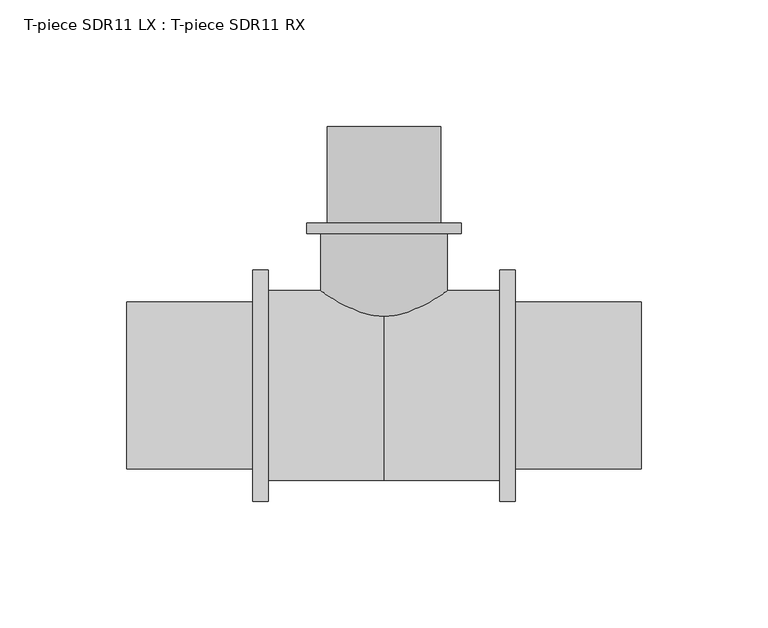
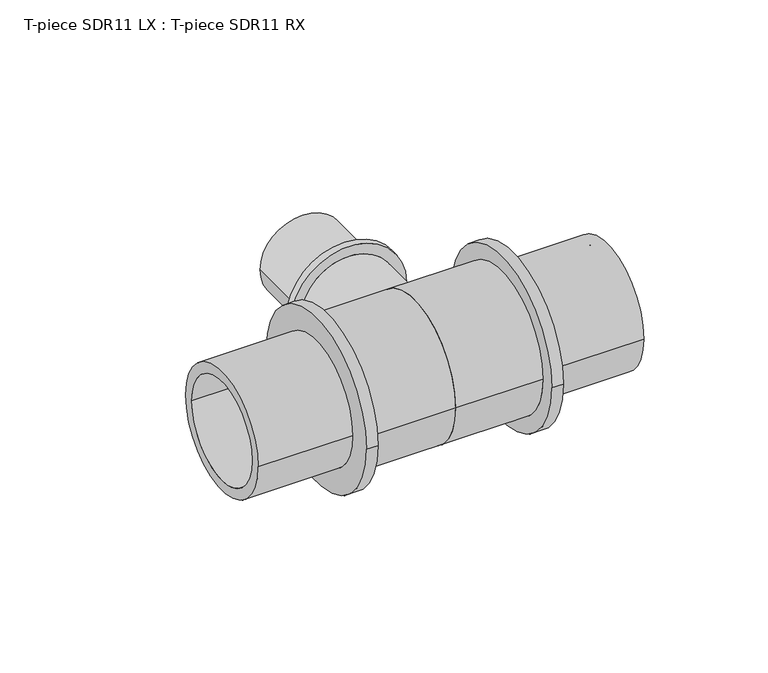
"""IFC4 building model written with IfcOpenShell, lengths in millimetres: pipe fitting geometry, T-piece SDR11 LX : T-piece SDR11 RX."""

from ifc_helpers import new_model, si_unit, point, frame, origin, place, context, project, spatial, polyline, circle_curve, ellipse_curve, trimmed, source, transform, mapped, element, save
from ifc_brep_helpers import plane_surface, cylinder_surface, revolved_surface, advanced_brep


def t_piece_sdr11_lx_t_piece_sdr11_rx_05f4d052(model_context):
    return source(origin(), model_context, "Body", "AdvancedBrep", [
        advanced_brep(
        [(25.0, 1.6537191, 0.0), (-25.0, 1.6537191, 0.0), (-25.0, 60.0, 0.0), (25.0, 60.0, 0.0), (17.8, 102.0, 0.0), (-17.8, 102.0, 0.0), (-17.8, 0.0, 0.0), (17.8, 0.0, 0.0), (22.4, 64.0, 0.0), (-22.4, 64.0, 0.0), (-22.4, 102.0, 0.0), (22.4, 102.0, 0.0), (30.4, 60.0, 0.0), (-30.4, 60.0, 0.0), (-30.4, 64.0, 0.0), (30.4, 64.0, 0.0)],
        [
            (0, 1, circle_curve(frame((0.0, 1.6537191, 0.0), z_axis=(0.0, 1.0, 0.0), x_axis=(-1.0, 0.0, 0.0)), 25.0)),
            (1, 2),
            (2, 3, circle_curve(frame((0.0, 60.0, 0.0), z_axis=(0.0, -1.0, 0.0), x_axis=(-1.0, 0.0, 0.0)), 25.0)),
            (3, 0),
            (4, 5, circle_curve(frame((0.0, 102.0, 0.0), z_axis=(0.0, 1.0, 0.0), x_axis=(-1.0, 0.0, 0.0)), 17.8)),
            (5, 6),
            (6, 7, circle_curve(frame((0.0, 0.0, 0.0), z_axis=(0.0, -1.0, 0.0), x_axis=(-1.0, 0.0, 0.0)), 17.8)),
            (7, 4),
            (8, 9, circle_curve(frame((0.0, 64.0, 0.0), z_axis=(0.0, 1.0, 0.0), x_axis=(-1.0, 0.0, 0.0)), 22.4)),
            (9, 10),
            (10, 11, circle_curve(frame((0.0, 102.0, 0.0), z_axis=(0.0, -1.0, 0.0), x_axis=(-1.0, 0.0, 0.0)), 22.4)),
            (11, 8),
            (12, 13, circle_curve(frame((0.0, 60.0, 0.0), z_axis=(0.0, 1.0, 0.0), x_axis=(-1.0, 0.0, 0.0)), 30.4)),
            (13, 14),
            (14, 15, circle_curve(frame((0.0, 64.0, 0.0), z_axis=(0.0, -1.0, 0.0), x_axis=(-1.0, 0.0, 0.0)), 30.4)),
            (15, 12),
            (12, 13, circle_curve(frame((0.0, 60.0, 0.0), z_axis=(0.0, -1.0, 0.0), x_axis=(1.0, 0.0, 0.0)), 30.4)),
            (2, 3, circle_curve(frame((0.0, 60.0, 0.0), z_axis=(0.0, 1.0, 0.0), x_axis=(1.0, 0.0, 0.0)), 25.0)),
            (1, 0, circle_curve(frame((0.0, 1.6537191, 0.0), z_axis=(0.0, 1.0, 0.0), x_axis=(1.0, 0.0, 0.0)), 25.0)),
            (5, 4, circle_curve(frame((0.0, 102.0, 0.0), z_axis=(0.0, 1.0, 0.0), x_axis=(1.0, 0.0, 0.0)), 17.8)),
            (7, 6, circle_curve(frame((0.0, 0.0, 0.0), z_axis=(0.0, -1.0, 0.0), x_axis=(1.0, 0.0, 0.0)), 17.8)),
            (10, 11, circle_curve(frame((0.0, 102.0, 0.0), z_axis=(0.0, 1.0, 0.0), x_axis=(1.0, 0.0, 0.0)), 22.4)),
            (9, 8, circle_curve(frame((0.0, 64.0, 0.0), z_axis=(0.0, 1.0, 0.0), x_axis=(1.0, 0.0, 0.0)), 22.4)),
            (14, 15, circle_curve(frame((0.0, 64.0, 0.0), z_axis=(0.0, 1.0, 0.0), x_axis=(1.0, 0.0, 0.0)), 30.4)),
            (6, 1, circle_curve(frame((-13.0462802, 37.197475, 0.0), z_axis=(0.0, 0.0, -1.0), x_axis=(0.0, -1.0, 0.0)), 37.5)),
            (0, 7, circle_curve(frame((13.0462802, 37.197475, 0.0), z_axis=(0.0, 0.0, -1.0), x_axis=(0.0, -1.0, 0.0)), 37.5)),
        ],
        [
            cylinder_surface(frame((0.0, 0.0, 0.0), z_axis=(0.0, -1.0, 0.0), x_axis=(-1.0, 0.0, 0.0)), 25.0),
            revolved_surface(polyline([(-17.8, 0.0, 0.0), (-17.8, 102.0, 0.0)]), (0.0, 0.0, 0.0), (0.0, -1.0, 0.0)),
            cylinder_surface(frame((0.0, 0.0, 0.0), z_axis=(0.0, -1.0, 0.0), x_axis=(-1.0, 0.0, 0.0)), 22.4),
            cylinder_surface(frame((0.0, 0.0, 0.0), z_axis=(0.0, -1.0, 0.0), x_axis=(-1.0, 0.0, 0.0)), 30.4),
            plane_surface(frame((0.0, 60.0, 0.0), z_axis=(0.0, -1.0, 0.0), x_axis=(1.0, 0.0, 0.0))),
            cylinder_surface(frame((0.0, 0.0, 0.0), z_axis=(0.0, -1.0, 0.0), x_axis=(1.0, 0.0, 0.0)), 25.0),
            revolved_surface(polyline([(17.8, 0.0, 0.0), (17.8, 102.0, 0.0)]), (0.0, 0.0, 0.0), (0.0, -1.0, 0.0)),
            plane_surface(frame((0.0, 102.0, 0.0), z_axis=(0.0, 1.0, 0.0), x_axis=(1.0, 0.0, 0.0))),
            cylinder_surface(frame((0.0, 0.0, 0.0), z_axis=(0.0, -1.0, 0.0), x_axis=(1.0, 0.0, 0.0)), 22.4),
            plane_surface(frame((0.0, 64.0, 0.0), z_axis=(0.0, 1.0, 0.0), x_axis=(1.0, 0.0, 0.0))),
            cylinder_surface(frame((0.0, 0.0, 0.0), z_axis=(0.0, -1.0, 0.0), x_axis=(1.0, 0.0, 0.0)), 30.4),
            revolved_surface(trimmed(ellipse_curve(frame((-13.0462802, 37.197475, 0.0), z_axis=(0.0, 0.0, 1.0), x_axis=(0.0, -1.0, 0.0)), 37.5, 37.5), [point((-25.0, 1.6537191, 0.0))], [point((-17.8, 0.0, 0.0))], True, "CARTESIAN"), (0.0, 0.0, 0.0), (0.0, -1.0, 0.0)),
            revolved_surface(trimmed(ellipse_curve(frame((13.0462802, 37.197475, 0.0), z_axis=(0.0, 0.0, -1.0), x_axis=(0.0, -1.0, 0.0)), 37.5, 37.5), [point((25.0, 1.6537191, 0.0))], [point((17.8, 0.0, 0.0))], True, "CARTESIAN"), (0.0, 0.0, 0.0), (0.0, -1.0, 0.0)),
        ],
        [
            (0, [[1, 2, 3, 4]]),
            (1, [[5, 6, 7, 8]]),
            (2, [[9, 10, 11, 12]]),
            (3, [[13, 14, 15, 16]]),
            (4, [[17, -13], [18, -3]]),
            (5, [[19, -4, -18, -2]]),
            (6, [[20, -8, 21, -6]]),
            (7, [[22, -11], [-20, -5]]),
            (8, [[23, -12, -22, -10]]),
            (9, [[24, -15], [-23, -9]]),
            (10, [[-17, -16, -24, -14]]),
            (11, [[-7, 25, -1, 26]]),
            (12, [[-21, -26, -19, -25]]),
        ],
    ),
        advanced_brep(
        [(45.7, 37.5, 0.0), (45.7, -37.5, 0.0), (0.0, -37.5, 0.0), (0.0, 37.5, 0.0), (0.0, 27.4, 0.0), (0.0, -27.4, 0.0), (101.3, -27.4, 0.0), (101.3, 27.4, 0.0), (101.3, 32.95, 0.0), (101.3, -32.95, 0.0), (51.7, -32.95, 0.0), (51.7, 32.95, 0.0), (51.7, 45.6, 0.0), (51.7, -45.6, 0.0), (45.7, -45.6, 0.0), (45.7, 45.6, 0.0)],
        [
            (0, 1, circle_curve(frame((45.7, 0.0, 0.0), z_axis=(-1.0, 0.0, 0.0), x_axis=(0.0, -1.0, 0.0)), 37.5)),
            (1, 2),
            (2, 3, circle_curve(frame((0.0, 0.0, 0.0), z_axis=(1.0, 0.0, 0.0), x_axis=(0.0, -1.0, 0.0)), 37.5)),
            (3, 0),
            (4, 5, circle_curve(frame((0.0, 0.0, 0.0), z_axis=(-1.0, 0.0, 0.0), x_axis=(0.0, -1.0, 0.0)), 27.4)),
            (5, 6),
            (6, 7, circle_curve(frame((101.3, 0.0, 0.0), z_axis=(1.0, 0.0, 0.0), x_axis=(0.0, -1.0, 0.0)), 27.4)),
            (7, 4),
            (8, 9, circle_curve(frame((101.3, 0.0, 0.0), z_axis=(-1.0, 0.0, 0.0), x_axis=(0.0, -1.0, 0.0)), 32.95)),
            (9, 10),
            (10, 11, circle_curve(frame((51.7, 0.0, 0.0), z_axis=(1.0, 0.0, 0.0), x_axis=(0.0, -1.0, 0.0)), 32.95)),
            (11, 8),
            (12, 13, circle_curve(frame((51.7, 0.0, 0.0), z_axis=(-1.0, 0.0, 0.0), x_axis=(0.0, -1.0, 0.0)), 45.6)),
            (13, 14),
            (14, 15, circle_curve(frame((45.7, 0.0, 0.0), z_axis=(1.0, 0.0, 0.0), x_axis=(0.0, -1.0, 0.0)), 45.6)),
            (15, 12),
            (14, 15, circle_curve(frame((45.7, 0.0, 0.0), z_axis=(-1.0, 0.0, 0.0), x_axis=(0.0, 1.0, 0.0)), 45.6)),
            (0, 1, circle_curve(frame((45.7, 0.0, 0.0), z_axis=(1.0, 0.0, 0.0), x_axis=(0.0, 1.0, 0.0)), 37.5)),
            (3, 2, circle_curve(frame((0.0, 0.0, 0.0), z_axis=(1.0, 0.0, 0.0), x_axis=(0.0, 1.0, 0.0)), 37.5)),
            (4, 5, circle_curve(frame((0.0, 0.0, 0.0), z_axis=(1.0, 0.0, 0.0), x_axis=(0.0, 1.0, 0.0)), 27.4)),
            (7, 6, circle_curve(frame((101.3, 0.0, 0.0), z_axis=(1.0, 0.0, 0.0), x_axis=(0.0, 1.0, 0.0)), 27.4)),
            (8, 9, circle_curve(frame((101.3, 0.0, 0.0), z_axis=(1.0, 0.0, 0.0), x_axis=(0.0, 1.0, 0.0)), 32.95)),
            (11, 10, circle_curve(frame((51.7, 0.0, 0.0), z_axis=(1.0, 0.0, 0.0), x_axis=(0.0, 1.0, 0.0)), 32.95)),
            (12, 13, circle_curve(frame((51.7, 0.0, 0.0), z_axis=(1.0, 0.0, 0.0), x_axis=(0.0, 1.0, 0.0)), 45.6)),
        ],
        [
            cylinder_surface(frame((0.0, 0.0, 0.0), z_axis=(1.0, 0.0, 0.0), x_axis=(0.0, -1.0, 0.0)), 37.5),
            revolved_surface(polyline([(101.3, -27.4, 0.0), (0.0, -27.4, 0.0)]), (0.0, 0.0, 0.0), (1.0, 0.0, 0.0)),
            cylinder_surface(frame((0.0, 0.0, 0.0), z_axis=(1.0, 0.0, 0.0), x_axis=(0.0, -1.0, 0.0)), 32.95),
            cylinder_surface(frame((0.0, 0.0, 0.0), z_axis=(1.0, 0.0, 0.0), x_axis=(0.0, -1.0, 0.0)), 45.6),
            plane_surface(frame((45.7, 0.0, 0.0), z_axis=(-1.0, 0.0, 0.0), x_axis=(0.0, 1.0, 0.0))),
            cylinder_surface(frame((0.0, 0.0, 0.0), z_axis=(1.0, 0.0, 0.0), x_axis=(0.0, 1.0, 0.0)), 37.5),
            plane_surface(frame((0.0, 0.0, 0.0), z_axis=(-1.0, 0.0, 0.0), x_axis=(0.0, 1.0, 0.0))),
            revolved_surface(polyline([(101.3, 27.4, 0.0), (0.0, 27.4, 0.0)]), (0.0, 0.0, 0.0), (1.0, 0.0, 0.0)),
            plane_surface(frame((101.3, 0.0, 0.0), z_axis=(1.0, 0.0, 0.0), x_axis=(0.0, 1.0, 0.0))),
            cylinder_surface(frame((0.0, 0.0, 0.0), z_axis=(1.0, 0.0, 0.0), x_axis=(0.0, 1.0, 0.0)), 32.95),
            plane_surface(frame((51.7, 0.0, 0.0), z_axis=(1.0, 0.0, 0.0), x_axis=(0.0, 1.0, 0.0))),
            cylinder_surface(frame((0.0, 0.0, 0.0), z_axis=(1.0, 0.0, 0.0), x_axis=(0.0, 1.0, 0.0)), 45.6),
        ],
        [
            (0, [[1, 2, 3, 4]]),
            (1, [[5, 6, 7, 8]]),
            (2, [[9, 10, 11, 12]]),
            (3, [[13, 14, 15, 16]]),
            (4, [[17, -15], [18, -1]]),
            (5, [[-18, -4, 19, -2]]),
            (6, [[-19, -3], [20, -5]]),
            (7, [[-20, -8, 21, -6]]),
            (8, [[22, -9], [-21, -7]]),
            (9, [[-22, -12, 23, -10]]),
            (10, [[24, -13], [-23, -11]]),
            (11, [[-24, -16, -17, -14]]),
        ],
    ),
        advanced_brep(
        [(0.0, 37.5, 0.0), (0.0, -37.5, 0.0), (-45.7, -37.5, 0.0), (-45.7, 37.5, 0.0), (-101.3, 27.4, 0.0), (-101.3, -27.4, 0.0), (0.0, -27.4, 0.0), (0.0, 27.4, 0.0), (-51.7, 32.95, 0.0), (-51.7, -32.95, 0.0), (-101.3, -32.95, 0.0), (-101.3, 32.95, 0.0), (-45.7, 45.6, 0.0), (-45.7, -45.6, 0.0), (-51.7, -45.6, 0.0), (-51.7, 45.6, 0.0)],
        [
            (0, 1, circle_curve(frame((0.0, 0.0, 0.0), z_axis=(-1.0, 0.0, 0.0), x_axis=(0.0, -1.0, 0.0)), 37.5)),
            (1, 2),
            (2, 3, circle_curve(frame((-45.7, 0.0, 0.0), z_axis=(1.0, 0.0, 0.0), x_axis=(0.0, -1.0, 0.0)), 37.5)),
            (3, 0),
            (4, 5, circle_curve(frame((-101.3, 0.0, 0.0), z_axis=(-1.0, 0.0, 0.0), x_axis=(0.0, -1.0, 0.0)), 27.4)),
            (5, 6),
            (6, 7, circle_curve(frame((0.0, 0.0, 0.0), z_axis=(1.0, 0.0, 0.0), x_axis=(0.0, -1.0, 0.0)), 27.4)),
            (7, 4),
            (8, 9, circle_curve(frame((-51.7, 0.0, 0.0), z_axis=(-1.0, 0.0, 0.0), x_axis=(0.0, -1.0, 0.0)), 32.95)),
            (9, 10),
            (10, 11, circle_curve(frame((-101.3, 0.0, 0.0), z_axis=(1.0, 0.0, 0.0), x_axis=(0.0, -1.0, 0.0)), 32.95)),
            (11, 8),
            (12, 13, circle_curve(frame((-45.7, 0.0, 0.0), z_axis=(-1.0, 0.0, 0.0), x_axis=(0.0, -1.0, 0.0)), 45.6)),
            (13, 14),
            (14, 15, circle_curve(frame((-51.7, 0.0, 0.0), z_axis=(1.0, 0.0, 0.0), x_axis=(0.0, -1.0, 0.0)), 45.6)),
            (15, 12),
            (12, 13, circle_curve(frame((-45.7, 0.0, 0.0), z_axis=(1.0, 0.0, 0.0), x_axis=(0.0, 1.0, 0.0)), 45.6)),
            (2, 3, circle_curve(frame((-45.7, 0.0, 0.0), z_axis=(-1.0, 0.0, 0.0), x_axis=(0.0, 1.0, 0.0)), 37.5)),
            (1, 0, circle_curve(frame((0.0, 0.0, 0.0), z_axis=(-1.0, 0.0, 0.0), x_axis=(0.0, 1.0, 0.0)), 37.5)),
            (6, 7, circle_curve(frame((0.0, 0.0, 0.0), z_axis=(-1.0, 0.0, 0.0), x_axis=(0.0, 1.0, 0.0)), 27.4)),
            (5, 4, circle_curve(frame((-101.3, 0.0, 0.0), z_axis=(-1.0, 0.0, 0.0), x_axis=(0.0, 1.0, 0.0)), 27.4)),
            (10, 11, circle_curve(frame((-101.3, 0.0, 0.0), z_axis=(-1.0, 0.0, 0.0), x_axis=(0.0, 1.0, 0.0)), 32.95)),
            (9, 8, circle_curve(frame((-51.7, 0.0, 0.0), z_axis=(-1.0, 0.0, 0.0), x_axis=(0.0, 1.0, 0.0)), 32.95)),
            (14, 15, circle_curve(frame((-51.7, 0.0, 0.0), z_axis=(-1.0, 0.0, 0.0), x_axis=(0.0, 1.0, 0.0)), 45.6)),
        ],
        [
            cylinder_surface(frame((0.0, 0.0, 0.0), z_axis=(1.0, 0.0, 0.0), x_axis=(0.0, -1.0, 0.0)), 37.5),
            revolved_surface(polyline([(0.0, -27.4, 0.0), (-101.3, -27.4, 0.0)]), (0.0, 0.0, 0.0), (1.0, 0.0, 0.0)),
            cylinder_surface(frame((0.0, 0.0, 0.0), z_axis=(1.0, 0.0, 0.0), x_axis=(0.0, -1.0, 0.0)), 32.95),
            cylinder_surface(frame((0.0, 0.0, 0.0), z_axis=(1.0, 0.0, 0.0), x_axis=(0.0, -1.0, 0.0)), 45.6),
            plane_surface(frame((-45.7, 0.0, 0.0), z_axis=(1.0, 0.0, 0.0), x_axis=(0.0, 1.0, 0.0))),
            cylinder_surface(frame((0.0, 0.0, 0.0), z_axis=(1.0, 0.0, 0.0), x_axis=(0.0, 1.0, 0.0)), 37.5),
            plane_surface(frame((0.0, 0.0, 0.0), z_axis=(1.0, 0.0, 0.0), x_axis=(0.0, 1.0, 0.0))),
            revolved_surface(polyline([(0.0, 27.4, 0.0), (-101.3, 27.4, 0.0)]), (0.0, 0.0, 0.0), (1.0, 0.0, 0.0)),
            plane_surface(frame((-101.3, 0.0, 0.0), z_axis=(-1.0, 0.0, 0.0), x_axis=(0.0, 1.0, 0.0))),
            cylinder_surface(frame((0.0, 0.0, 0.0), z_axis=(1.0, 0.0, 0.0), x_axis=(0.0, 1.0, 0.0)), 32.95),
            plane_surface(frame((-51.7, 0.0, 0.0), z_axis=(-1.0, 0.0, 0.0), x_axis=(0.0, 1.0, 0.0))),
            cylinder_surface(frame((0.0, 0.0, 0.0), z_axis=(1.0, 0.0, 0.0), x_axis=(0.0, 1.0, 0.0)), 45.6),
        ],
        [
            (0, [[1, 2, 3, 4]]),
            (1, [[5, 6, 7, 8]]),
            (2, [[9, 10, 11, 12]]),
            (3, [[13, 14, 15, 16]]),
            (4, [[17, -13], [18, -3]]),
            (5, [[19, -4, -18, -2]]),
            (6, [[-19, -1], [20, -7]]),
            (7, [[21, -8, -20, -6]]),
            (8, [[22, -11], [-21, -5]]),
            (9, [[23, -12, -22, -10]]),
            (10, [[24, -15], [-23, -9]]),
            (11, [[-17, -16, -24, -14]]),
        ],
    ),
    ])


if __name__ == "__main__":
    model = new_model("IFC4")
    model_context = context("Model", 3, world=origin())
    ifc_project = project(units=[si_unit("LENGTHUNIT", "METRE", prefix="MILLI")], contexts=[model_context])
    site = spatial("IfcSite", under=ifc_project)
    building = spatial("IfcBuilding", under=site)
    placement = place(None, origin())
    t_piece_sdr11_lx_t_piece_sdr11_rx_shape = t_piece_sdr11_lx_t_piece_sdr11_rx_05f4d052(model_context)
    element("IfcPipeFitting", 1, ObjectType="T-piece SDR11 LX : T-piece SDR11 RX", at=placement, inside=building, context=model_context, shape_type="MappedRepresentation", body=[
        mapped(t_piece_sdr11_lx_t_piece_sdr11_rx_shape, transform((0.0, 0.0, 0.0), x_axis=(1.0, 0.0, 0.0), y_axis=(0.0, 1.0, 0.0), z_axis=(0.0, 0.0, 1.0))),
    ])
    save(model, "model.ifc")
